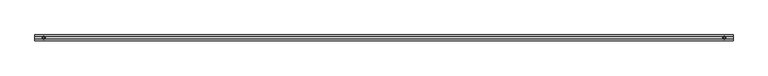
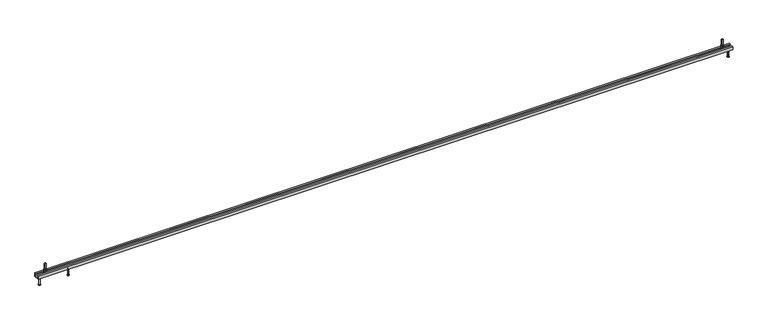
"""IFC4 building model written with IfcOpenShell, lengths in millimetres: fastener geometry, JTA-W JORDAHL® AnchorChannels : JTA-W L=6000 mm."""

from ifc_helpers import new_model, si_unit, point, frame, frame_2d, origin, place, context, project, spatial, polyline, circle_curve, trimmed, segment, composite_curve, outline, extrude, source, transform, mapped, element, save
from ifc_brep_helpers import plane_surface, cylinder_surface, revolved_surface, advanced_brep


def fastener_e199b68b(model_context):
    return source(origin(), model_context, "Body", "SolidModel", [
        advanced_brep(
        [(272.9166667, 0.0, -30.0), (259.4166667, 0.0, -30.0), (286.4166667, 0.0, -30.0), (264.4166667, 0.0, -100.0), (272.9166667, 0.0, -100.0), (281.4166667, 0.0, -100.0), (264.4166667, 0.0, -98.0), (281.4166667, 0.0, -98.0), (268.4166667, 0.0, -95.6905989), (277.4166667, 0.0, -95.6905989), (268.4166667, 0.0, -32.5), (277.4166667, 0.0, -32.5)],
        [
            (0, 1),
            (1, 2, circle_curve(frame((272.9166667, 0.0, -30.0), z_axis=(0.0, 0.0, 1.0), x_axis=(1.0, 0.0, 0.0)), 13.5)),
            (2, 0),
            (2, 1, circle_curve(frame((272.9166667, 0.0, -30.0), z_axis=(0.0, 0.0, 1.0), x_axis=(1.0, 0.0, 0.0)), 13.5)),
            (3, 4),
            (4, 5),
            (5, 3, circle_curve(frame((272.9166667, 0.0, -100.0), z_axis=(0.0, 0.0, -1.0), x_axis=(1.0, 0.0, 0.0)), 8.5)),
            (3, 5, circle_curve(frame((272.9166667, 0.0, -100.0), z_axis=(0.0, 0.0, -1.0), x_axis=(1.0, 0.0, 0.0)), 8.5)),
            (6, 3),
            (5, 7),
            (7, 6, circle_curve(frame((272.9166667, 0.0, -98.0), z_axis=(0.0, 0.0, -1.0), x_axis=(1.0, 0.0, 0.0)), 8.5)),
            (6, 7, circle_curve(frame((272.9166667, 0.0, -98.0), z_axis=(0.0, 0.0, -1.0), x_axis=(1.0, 0.0, 0.0)), 8.5)),
            (8, 6),
            (7, 9),
            (9, 8, circle_curve(frame((272.9166667, 0.0, -95.6905989), z_axis=(0.0, 0.0, -1.0), x_axis=(1.0, 0.0, 0.0)), 4.5)),
            (8, 9, circle_curve(frame((272.9166667, 0.0, -95.6905989), z_axis=(0.0, 0.0, -1.0), x_axis=(1.0, 0.0, 0.0)), 4.5)),
            (10, 8),
            (9, 11),
            (11, 10, circle_curve(frame((272.9166667, 0.0, -32.5), z_axis=(0.0, 0.0, -1.0), x_axis=(1.0, 0.0, 0.0)), 4.5)),
            (10, 11, circle_curve(frame((272.9166667, 0.0, -32.5), z_axis=(0.0, 0.0, -1.0), x_axis=(1.0, 0.0, 0.0)), 4.5)),
            (1, 10),
            (11, 2),
        ],
        [
            plane_surface(frame((272.9166667, 0.0, -30.0), z_axis=(0.0, 0.0, 1.0), x_axis=(1.0, 0.0, 0.0))),
            plane_surface(frame((272.9166667, 0.0, -100.0), z_axis=(0.0, 0.0, -1.0), x_axis=(1.0, 0.0, 0.0))),
            cylinder_surface(frame((272.9166667, 0.0, 2284.3150031), z_axis=(0.0, 0.0, 1.0), x_axis=(1.0, 0.0, 0.0)), 8.5),
            revolved_surface(polyline([(281.4166667, 0.0, -98.0), (277.4166667, 0.0, -95.6905989)]), (272.9166667, 0.0, 2284.3150031), (0.0, 0.0, 1.0)),
            cylinder_surface(frame((272.9166667, 0.0, 2284.3150031), z_axis=(0.0, 0.0, 1.0), x_axis=(1.0, 0.0, 0.0)), 4.5),
            revolved_surface(polyline([(277.4166667, 0.0, -32.5), (286.4166667, 0.0, -30.0)]), (272.9166667, 0.0, 2284.3150031), (0.0, 0.0, 1.0)),
        ],
        [
            (0, [[1, 2, 3]]),
            (0, [[-3, 4, -1]]),
            (1, [[5, 6, 7]]),
            (1, [[-6, -5, 8]]),
            (2, [[9, -7, 10, 11]]),
            (2, [[-10, -8, -9, 12]]),
            (3, [[13, -11, 14, 15]]),
            (3, [[-14, -12, -13, 16]]),
            (4, [[17, -15, 18, 19]]),
            (4, [[-18, -16, -17, 20]]),
            (5, [[21, -19, 22, -2]]),
            (5, [[-22, -20, -21, -4]]),
        ],
    ),
        extrude(outline(polyline([(5925.0, -10.3923048), (5916.0, -5.1961524), (5916.0, 5.1961524), (5925.0, 10.3923048), (5934.0, 5.1961524), (5934.0, -5.1961524), (5925.0, -10.3923048)]), holes=[composite_curve([segment(trimmed(circle_curve(frame_2d((5925.0, 0.0)), 6.0), [point((5919.0, 0.0))], [point((5931.0, 0.0))], True, "CARTESIAN"), True, "CONTINUOUS"), segment(trimmed(circle_curve(frame_2d((5925.0, 0.0)), 6.0), [point((5931.0, 0.0))], [point((5919.0, 0.0))], True, "CARTESIAN"), True, "CONTINUOUS")], self_intersect=False)]), frame((0.0, 0.0, 17.5), z_axis=(0.0, 0.0, 1.0), x_axis=(1.0, 0.0, 0.0)), (0.0, 0.0, 1.0), 10.8),
        extrude(outline(composite_curve([segment(trimmed(circle_curve(frame_2d((5925.0, 0.0)), 12.0), [point((5913.0, 0.0))], [point((5937.0, 0.0))], False, "CARTESIAN"), True, "CONTINUOUS"), segment(trimmed(circle_curve(frame_2d((5925.0, 0.0)), 12.0), [point((5937.0, 0.0))], [point((5913.0, 0.0))], False, "CARTESIAN"), True, "CONTINUOUS")], self_intersect=False), holes=[composite_curve([segment(trimmed(circle_curve(frame_2d((5925.0, 0.0)), 6.5), [point((5918.5, 0.0))], [point((5931.5, 0.0))], True, "CARTESIAN"), True, "CONTINUOUS"), segment(trimmed(circle_curve(frame_2d((5925.0, 0.0)), 6.5), [point((5931.5, 0.0))], [point((5918.5, 0.0))], True, "CARTESIAN"), True, "CONTINUOUS")], self_intersect=False)]), frame((0.0, 0.0, 15.0), z_axis=(0.0, 0.0, 1.0), x_axis=(1.0, 0.0, 0.0)), (0.0, 0.0, 1.0), 2.5),
        extrude(outline(polyline([(75.0, -10.3923048), (66.0, -5.1961524), (66.0, 5.1961524), (75.0, 10.3923048), (84.0, 5.1961524), (84.0, -5.1961524), (75.0, -10.3923048)]), holes=[composite_curve([segment(trimmed(circle_curve(frame_2d((75.0, 0.0)), 6.0), [point((69.0, 0.0))], [point((81.0, 0.0))], True, "CARTESIAN"), True, "CONTINUOUS"), segment(trimmed(circle_curve(frame_2d((75.0, 0.0)), 6.0), [point((81.0, 0.0))], [point((69.0, 0.0))], True, "CARTESIAN"), True, "CONTINUOUS")], self_intersect=False)]), frame((0.0, 0.0, 17.5), z_axis=(0.0, 0.0, 1.0), x_axis=(1.0, 0.0, 0.0)), (0.0, 0.0, 1.0), 10.8),
        extrude(outline(composite_curve([segment(trimmed(circle_curve(frame_2d((75.0, 0.0)), 12.0), [point((63.0, 0.0))], [point((87.0, 0.0))], False, "CARTESIAN"), True, "CONTINUOUS"), segment(trimmed(circle_curve(frame_2d((75.0, 0.0)), 12.0), [point((87.0, 0.0))], [point((63.0, 0.0))], False, "CARTESIAN"), True, "CONTINUOUS")], self_intersect=False), holes=[composite_curve([segment(trimmed(circle_curve(frame_2d((75.0, 0.0)), 6.5), [point((68.5, 0.0))], [point((81.5, 0.0))], True, "CARTESIAN"), True, "CONTINUOUS"), segment(trimmed(circle_curve(frame_2d((75.0, 0.0)), 6.5), [point((81.5, 0.0))], [point((68.5, 0.0))], True, "CARTESIAN"), True, "CONTINUOUS")], self_intersect=False)]), frame((0.0, 0.0, 15.0), z_axis=(0.0, 0.0, 1.0), x_axis=(1.0, 0.0, 0.0)), (0.0, 0.0, 1.0), 2.5),
        advanced_brep(
        [(5933.5, -20.7, -4.0), (5933.5, -20.7, -14.0), (5933.5, 20.7, -14.0), (5933.5, 20.7, -4.0), (5916.5, -20.7, -4.0), (5916.5, 20.7, -4.0), (5916.5, 20.7, -14.0), (5916.5, -20.7, -14.0), (5931.0, 0.0, -4.0), (5919.0, 0.0, -4.0), (5919.0, 0.0, 76.0), (5931.0, 0.0, 76.0)],
        [
            (0, 1),
            (1, 2),
            (2, 3),
            (3, 0),
            (4, 5),
            (5, 6),
            (6, 7),
            (7, 4),
            (3, 5),
            (4, 0),
            (8, 9, circle_curve(frame((5925.0, 0.0, -4.0), z_axis=(0.0, 0.0, -1.0), x_axis=(1.0, 0.0, 0.0)), 6.0)),
            (9, 8, circle_curve(frame((5925.0, 0.0, -4.0), z_axis=(0.0, 0.0, -1.0), x_axis=(1.0, 0.0, 0.0)), 6.0)),
            (2, 6),
            (1, 7),
            (10, 11, circle_curve(frame((5925.0, 0.0, 76.0), z_axis=(0.0, 0.0, 1.0), x_axis=(1.0, 0.0, 0.0)), 6.0)),
            (11, 10, circle_curve(frame((5925.0, 0.0, 76.0), z_axis=(0.0, 0.0, 1.0), x_axis=(1.0, 0.0, 0.0)), 6.0)),
            (11, 8),
            (9, 10),
        ],
        [
            plane_surface(frame((5933.5, 20.7, -4.0), z_axis=(1.0, 0.0, 0.0), x_axis=(0.0, 1.0, 0.0))),
            plane_surface(frame((5916.5, 20.7, -4.0), z_axis=(-1.0, 0.0, 0.0), x_axis=(0.0, -1.0, 0.0))),
            plane_surface(frame((5933.5, -20.7, -4.0), z_axis=(0.0, 0.0, 1.0), x_axis=(-1.0, 0.0, 0.0))),
            plane_surface(frame((5933.5, 20.7, -4.0), z_axis=(0.0, 1.0, 0.0), x_axis=(-1.0, 0.0, 0.0))),
            plane_surface(frame((5933.5, 20.7, -14.0), z_axis=(0.0, 0.0, -1.0), x_axis=(-1.0, 0.0, 0.0))),
            plane_surface(frame((5933.5, -20.7, -14.0), z_axis=(0.0, -1.0, 0.0), x_axis=(-1.0, 0.0, 0.0))),
            plane_surface(frame((5931.0, 0.0, 76.0), z_axis=(0.0, 0.0, 1.0), x_axis=(0.0, -1.0, 0.0))),
            cylinder_surface(frame((5925.0, 0.0, -4.0), z_axis=(0.0, 0.0, 1.0), x_axis=(1.0, 0.0, 0.0)), 6.0),
        ],
        [
            (0, [[1, 2, 3, 4]]),
            (1, [[5, 6, 7, 8]]),
            (2, [[9, -5, 10, -4], [11, 12]]),
            (3, [[13, -6, -9, -3]]),
            (4, [[14, -7, -13, -2]]),
            (5, [[-10, -8, -14, -1]]),
            (6, [[15, 16]]),
            (7, [[17, -12, 18, -16]]),
            (7, [[-18, -11, -17, -15]]),
        ],
    ),
        advanced_brep(
        [(83.5, -20.7, -4.0), (83.5, -20.7, -14.0), (83.5, 20.7, -14.0), (83.5, 20.7, -4.0), (66.5, -20.7, -4.0), (66.5, 20.7, -4.0), (66.5, 20.7, -14.0), (66.5, -20.7, -14.0), (81.0, 0.0, -4.0), (69.0, 0.0, -4.0), (69.0, 0.0, 76.0), (81.0, 0.0, 76.0)],
        [
            (0, 1),
            (1, 2),
            (2, 3),
            (3, 0),
            (4, 5),
            (5, 6),
            (6, 7),
            (7, 4),
            (3, 5),
            (4, 0),
            (8, 9, circle_curve(frame((75.0, 0.0, -4.0), z_axis=(0.0, 0.0, -1.0), x_axis=(1.0, 0.0, 0.0)), 6.0)),
            (9, 8, circle_curve(frame((75.0, 0.0, -4.0), z_axis=(0.0, 0.0, -1.0), x_axis=(1.0, 0.0, 0.0)), 6.0)),
            (2, 6),
            (1, 7),
            (10, 11, circle_curve(frame((75.0, 0.0, 76.0), z_axis=(0.0, 0.0, 1.0), x_axis=(1.0, 0.0, 0.0)), 6.0)),
            (11, 10, circle_curve(frame((75.0, 0.0, 76.0), z_axis=(0.0, 0.0, 1.0), x_axis=(1.0, 0.0, 0.0)), 6.0)),
            (11, 8),
            (9, 10),
        ],
        [
            plane_surface(frame((83.5, 20.7, -4.0), z_axis=(1.0, 0.0, 0.0), x_axis=(0.0, 1.0, 0.0))),
            plane_surface(frame((66.5, 20.7, -4.0), z_axis=(-1.0, 0.0, 0.0), x_axis=(0.0, -1.0, 0.0))),
            plane_surface(frame((83.5, -20.7, -4.0), z_axis=(0.0, 0.0, 1.0), x_axis=(-1.0, 0.0, 0.0))),
            plane_surface(frame((83.5, 20.7, -4.0), z_axis=(0.0, 1.0, 0.0), x_axis=(-1.0, 0.0, 0.0))),
            plane_surface(frame((83.5, 20.7, -14.0), z_axis=(0.0, 0.0, -1.0), x_axis=(-1.0, 0.0, 0.0))),
            plane_surface(frame((83.5, -20.7, -14.0), z_axis=(0.0, -1.0, 0.0), x_axis=(-1.0, 0.0, 0.0))),
            plane_surface(frame((81.0, 0.0, 76.0), z_axis=(0.0, 0.0, 1.0), x_axis=(0.0, -1.0, 0.0))),
            cylinder_surface(frame((75.0, 0.0, -4.0), z_axis=(0.0, 0.0, 1.0), x_axis=(1.0, 0.0, 0.0)), 6.0),
        ],
        [
            (0, [[1, 2, 3, 4]]),
            (1, [[5, 6, 7, 8]]),
            (2, [[9, -5, 10, -4], [11, 12]]),
            (3, [[13, -6, -9, -3]]),
            (4, [[14, -7, -13, -2]]),
            (5, [[-10, -8, -14, -1]]),
            (6, [[15, 16]]),
            (7, [[17, -12, 18, -16]]),
            (7, [[-18, -11, -17, -15]]),
        ],
    ),
        advanced_brep(
        [(5975.0, 0.0, -30.0), (5961.5, 0.0, -30.0), (5988.5, 0.0, -30.0), (5966.5, 0.0, -100.0), (5975.0, 0.0, -100.0), (5983.5, 0.0, -100.0), (5966.5, 0.0, -98.0), (5983.5, 0.0, -98.0), (5970.5, 0.0, -95.6905989), (5979.5, 0.0, -95.6905989), (5970.5, 0.0, -32.5), (5979.5, 0.0, -32.5)],
        [
            (0, 1),
            (1, 2, circle_curve(frame((5975.0, 0.0, -30.0), z_axis=(0.0, 0.0, 1.0), x_axis=(1.0, 0.0, 0.0)), 13.5)),
            (2, 0),
            (2, 1, circle_curve(frame((5975.0, 0.0, -30.0), z_axis=(0.0, 0.0, 1.0), x_axis=(1.0, 0.0, 0.0)), 13.5)),
            (3, 4),
            (4, 5),
            (5, 3, circle_curve(frame((5975.0, 0.0, -100.0), z_axis=(0.0, 0.0, -1.0), x_axis=(1.0, 0.0, 0.0)), 8.5)),
            (3, 5, circle_curve(frame((5975.0, 0.0, -100.0), z_axis=(0.0, 0.0, -1.0), x_axis=(1.0, 0.0, 0.0)), 8.5)),
            (6, 3),
            (5, 7),
            (7, 6, circle_curve(frame((5975.0, 0.0, -98.0), z_axis=(0.0, 0.0, -1.0), x_axis=(1.0, 0.0, 0.0)), 8.5)),
            (6, 7, circle_curve(frame((5975.0, 0.0, -98.0), z_axis=(0.0, 0.0, -1.0), x_axis=(1.0, 0.0, 0.0)), 8.5)),
            (8, 6),
            (7, 9),
            (9, 8, circle_curve(frame((5975.0, 0.0, -95.6905989), z_axis=(0.0, 0.0, -1.0), x_axis=(1.0, 0.0, 0.0)), 4.5)),
            (8, 9, circle_curve(frame((5975.0, 0.0, -95.6905989), z_axis=(0.0, 0.0, -1.0), x_axis=(1.0, 0.0, 0.0)), 4.5)),
            (10, 8),
            (9, 11),
            (11, 10, circle_curve(frame((5975.0, 0.0, -32.5), z_axis=(0.0, 0.0, -1.0), x_axis=(1.0, 0.0, 0.0)), 4.5)),
            (10, 11, circle_curve(frame((5975.0, 0.0, -32.5), z_axis=(0.0, 0.0, -1.0), x_axis=(1.0, 0.0, 0.0)), 4.5)),
            (1, 10),
            (11, 2),
        ],
        [
            plane_surface(frame((5975.0, 0.0, -30.0), z_axis=(0.0, 0.0, 1.0), x_axis=(1.0, 0.0, 0.0))),
            plane_surface(frame((5975.0, 0.0, -100.0), z_axis=(0.0, 0.0, -1.0), x_axis=(1.0, 0.0, 0.0))),
            cylinder_surface(frame((5975.0, 0.0, 2284.3150031), z_axis=(0.0, 0.0, 1.0), x_axis=(1.0, 0.0, 0.0)), 8.5),
            revolved_surface(polyline([(5983.5, 0.0, -98.0), (5979.5, 0.0, -95.6905989)]), (5975.0, 0.0, 2284.3150031), (0.0, 0.0, 1.0)),
            cylinder_surface(frame((5975.0, 0.0, 2284.3150031), z_axis=(0.0, 0.0, 1.0), x_axis=(1.0, 0.0, 0.0)), 4.5),
            revolved_surface(polyline([(5979.5, 0.0, -32.5), (5988.5, 0.0, -30.0)]), (5975.0, 0.0, 2284.3150031), (0.0, 0.0, 1.0)),
        ],
        [
            (0, [[1, 2, 3]]),
            (0, [[-3, 4, -1]]),
            (1, [[5, 6, 7]]),
            (1, [[-6, -5, 8]]),
            (2, [[9, -7, 10, 11]]),
            (2, [[-10, -8, -9, 12]]),
            (3, [[13, -11, 14, 15]]),
            (3, [[-14, -12, -13, 16]]),
            (4, [[17, -15, 18, 19]]),
            (4, [[-18, -16, -17, 20]]),
            (5, [[21, -19, 22, -2]]),
            (5, [[-22, -20, -21, -4]]),
        ],
    ),
        advanced_brep(
        [(25.0, 0.0, -30.0), (11.5, 0.0, -30.0), (38.5, 0.0, -30.0), (16.5, 0.0, -100.0), (25.0, 0.0, -100.0), (33.5, 0.0, -100.0), (16.5, 0.0, -98.0), (33.5, 0.0, -98.0), (20.5, 0.0, -95.6905989), (29.5, 0.0, -95.6905989), (20.5, 0.0, -32.5), (29.5, 0.0, -32.5)],
        [
            (0, 1),
            (1, 2, circle_curve(frame((25.0, 0.0, -30.0), z_axis=(0.0, 0.0, 1.0), x_axis=(1.0, 0.0, 0.0)), 13.5)),
            (2, 0),
            (2, 1, circle_curve(frame((25.0, 0.0, -30.0), z_axis=(0.0, 0.0, 1.0), x_axis=(1.0, 0.0, 0.0)), 13.5)),
            (3, 4),
            (4, 5),
            (5, 3, circle_curve(frame((25.0, 0.0, -100.0), z_axis=(0.0, 0.0, -1.0), x_axis=(1.0, 0.0, 0.0)), 8.5)),
            (3, 5, circle_curve(frame((25.0, 0.0, -100.0), z_axis=(0.0, 0.0, -1.0), x_axis=(1.0, 0.0, 0.0)), 8.5)),
            (6, 3),
            (5, 7),
            (7, 6, circle_curve(frame((25.0, 0.0, -98.0), z_axis=(0.0, 0.0, -1.0), x_axis=(1.0, 0.0, 0.0)), 8.5)),
            (6, 7, circle_curve(frame((25.0, 0.0, -98.0), z_axis=(0.0, 0.0, -1.0), x_axis=(1.0, 0.0, 0.0)), 8.5)),
            (8, 6),
            (7, 9),
            (9, 8, circle_curve(frame((25.0, 0.0, -95.6905989), z_axis=(0.0, 0.0, -1.0), x_axis=(1.0, 0.0, 0.0)), 4.5)),
            (8, 9, circle_curve(frame((25.0, 0.0, -95.6905989), z_axis=(0.0, 0.0, -1.0), x_axis=(1.0, 0.0, 0.0)), 4.5)),
            (10, 8),
            (9, 11),
            (11, 10, circle_curve(frame((25.0, 0.0, -32.5), z_axis=(0.0, 0.0, -1.0), x_axis=(1.0, 0.0, 0.0)), 4.5)),
            (10, 11, circle_curve(frame((25.0, 0.0, -32.5), z_axis=(0.0, 0.0, -1.0), x_axis=(1.0, 0.0, 0.0)), 4.5)),
            (1, 10),
            (11, 2),
        ],
        [
            plane_surface(frame((25.0, 0.0, -30.0), z_axis=(0.0, 0.0, 1.0), x_axis=(1.0, 0.0, 0.0))),
            plane_surface(frame((25.0, 0.0, -100.0), z_axis=(0.0, 0.0, -1.0), x_axis=(1.0, 0.0, 0.0))),
            cylinder_surface(frame((25.0, 0.0, 2284.3150031), z_axis=(0.0, 0.0, 1.0), x_axis=(1.0, 0.0, 0.0)), 8.5),
            revolved_surface(polyline([(33.5, 0.0, -98.0), (29.5, 0.0, -95.6905989)]), (25.0, 0.0, 2284.3150031), (0.0, 0.0, 1.0)),
            cylinder_surface(frame((25.0, 0.0, 2284.3150031), z_axis=(0.0, 0.0, 1.0), x_axis=(1.0, 0.0, 0.0)), 4.5),
            revolved_surface(polyline([(29.5, 0.0, -32.5), (38.5, 0.0, -30.0)]), (25.0, 0.0, 2284.3150031), (0.0, 0.0, 1.0)),
        ],
        [
            (0, [[1, 2, 3]]),
            (0, [[-3, 4, -1]]),
            (1, [[5, 6, 7]]),
            (1, [[-6, -5, 8]]),
            (2, [[9, -7, 10, 11]]),
            (2, [[-10, -8, -9, 12]]),
            (3, [[13, -11, 14, 15]]),
            (3, [[-14, -12, -13, 16]]),
            (4, [[17, -15, 18, 19]]),
            (4, [[-18, -16, -17, 20]]),
            (5, [[21, -19, 22, -2]]),
            (5, [[-22, -20, -21, -4]]),
        ],
    ),
        extrude(outline(polyline([(-24.75, 0.0), (-11.25, 0.0), (-11.25, -4.0), (-21.95, -4.0), (-21.95, -27.2), (21.95, -27.2), (21.95, -4.0), (11.25, -4.0), (11.25, 0.0), (24.75, 0.0), (24.75, -30.0), (-24.75, -30.0), (-24.75, 0.0)])), frame((0.0, 0.0, 0.0), z_axis=(1.0, 0.0, 0.0), x_axis=(0.0, 1.0, 0.0)), (0.0, 0.0, 1.0), 6000.0),
    ])


if __name__ == "__main__":
    model = new_model("IFC4")
    model_context = context("Model", 3, world=origin())
    ifc_project = project(units=[si_unit("LENGTHUNIT", "METRE", prefix="MILLI")], contexts=[model_context])
    site = spatial("IfcSite", under=ifc_project)
    building = spatial("IfcBuilding", under=site)
    placement = place(None, origin())
    fastener_shape = fastener_e199b68b(model_context)
    element("IfcFastener", 1, ObjectType="JTA-W JORDAHL® AnchorChannels : JTA-W L=6000 mm", at=placement, inside=building, context=model_context, shape_type="MappedRepresentation", body=[
        mapped(fastener_shape, transform((0.0, 0.0, 0.0), x_axis=(1.0, 0.0, 0.0), y_axis=(0.0, 1.0, 0.0), z_axis=(0.0, 0.0, 1.0))),
    ])
    save(model, "model.ifc")
